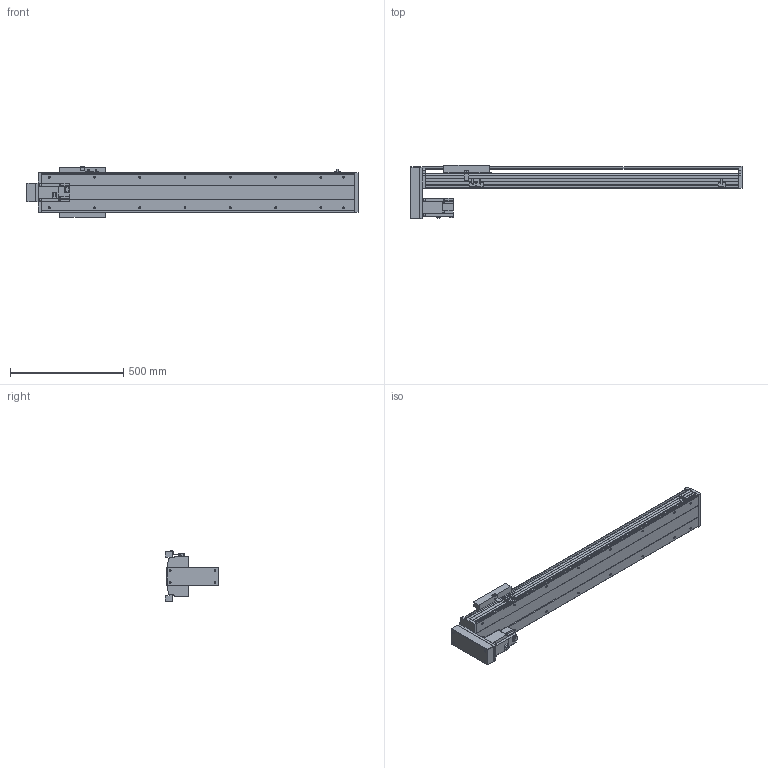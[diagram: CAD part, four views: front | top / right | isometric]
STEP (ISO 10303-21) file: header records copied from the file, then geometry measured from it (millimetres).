
FILE_DESCRIPTION(/* description */ ('STEP AP214'),/* implementation_level */ '2;1');
FILE_NAME(/* name */ 'PSS200-L10-S1050-BM-T75-C1-N(0)',/* time_stamp */ '2022-06-29T09:55:02+02:00',/* author */ ('License CC BY-ND 4.0'),/* organization */ ('CADENAS'),/* preprocessor_version */ 'ST-DEVELOPER v18.102',/* originating_system */ 'PARTsolutions',/* authorisation */ ' ');
FILE_SCHEMA (('AUTOMOTIVE_DESIGN {1 0 10303 214 3 1 1}'));
Length unit declared in the file: millimetre
Products named in the file (8): PSS200-L10-S1050-BM-T75-C1-N(0); PSS200-S1050-BM-N_S; T75-p1; PSS200BM-N_h; PSS200-N_sensor; PSS200-BM-C1-N_sl; PSS200-N_Q; PSS200-S1050-BM-C1-N_body
Assembly tree (9 placements, depth 2):
  PSS200-L10-S1050-BM-T75-C1-N(0)
    PSS200-S1050-BM-N_S
    T75-p1
    PSS200BM-N_h
    PSS200-N_sensor  x3
    PSS200-BM-C1-N_sl
    PSS200-N_Q
    PSS200-S1050-BM-C1-N_body
Bounding box: 1466.85 x 234.45 x 223.86 mm (x, y, z)
Volume: 9475048.1 mm3; surface area: 2290848.1 mm2
Topology: 9 solids, 9 shells, 606 faces, 1625 edges, 1078 vertices
Faces by surface type: plane 452, cylinder 126, cone 24, sphere 4
Full cylindrical faces by diameter (mm): 4 x2, 4.5 x4, 6 x7, 6.647 x20, 7.4 x4, 8 x8, 10 x6, 25 x1, 40 x1, 67 x1
Entity records: 16852 total; most frequent: CARTESIAN_POINT 2917, DIRECTION 2787, ORIENTED_EDGE 2746, EDGE_CURVE 1373, LINE 1071, VECTOR 1071, VERTEX_POINT 956, AXIS2_PLACEMENT_3D 858
